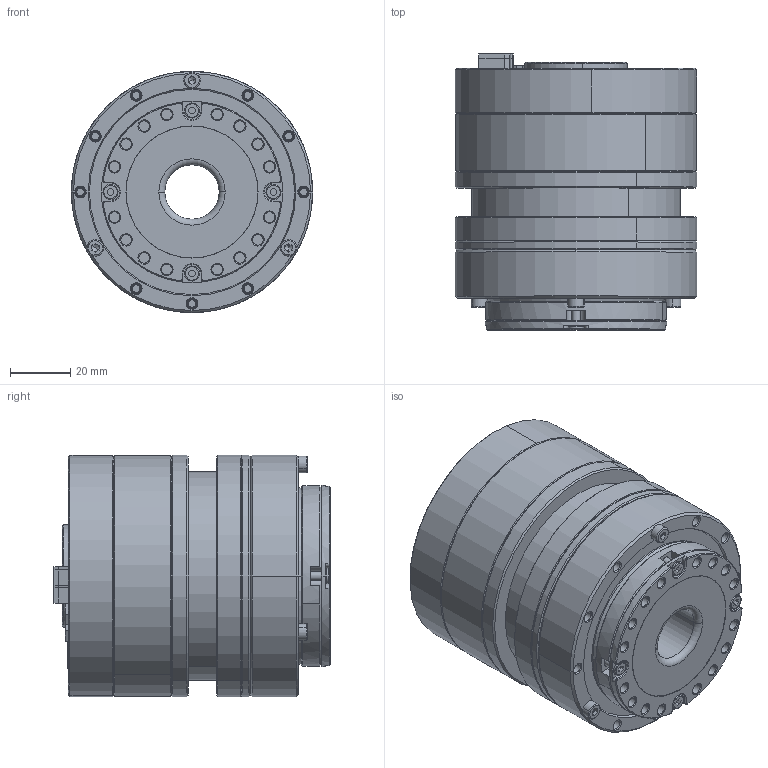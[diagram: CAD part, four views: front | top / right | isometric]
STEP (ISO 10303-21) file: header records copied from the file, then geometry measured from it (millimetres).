
FILE_DESCRIPTION (( 'STEP AP203' ), '1' );
FILE_NAME ('CRA-RI60-80-PRO-2-xxx-B-B0.STEP', '2024-11-11T05:47:41', ( '' ), ( '' ), 'SwSTEP 2.0', 'SolidWorks 2021', '' );
FILE_SCHEMA (( 'CONFIG_CONTROL_DESIGN' ));
Length unit declared in the file: millimetre
Products named in the file (1): CRA-RI60-80-PRO-2-xxx-B-B0
Bounding box: 80 x 91.5 x 80 mm (x, y, z)
Surface area: 62102.2 mm2 (no closed solid volume)
Topology: 0 solids, 81 shells, 716 faces, 2453 edges, 1799 vertices
Faces by surface type: plane 276, cylinder 206, cone 195, torus 38, sphere 1
Entity records: 29401 total; most frequent: CARTESIAN_POINT 7879, DIRECTION 4718, ORIENTED_EDGE 3712, EDGE_CURVE 2438, VERTEX_POINT 1799, AXIS2_PLACEMENT_3D 1726, LINE 1266, VECTOR 1266
